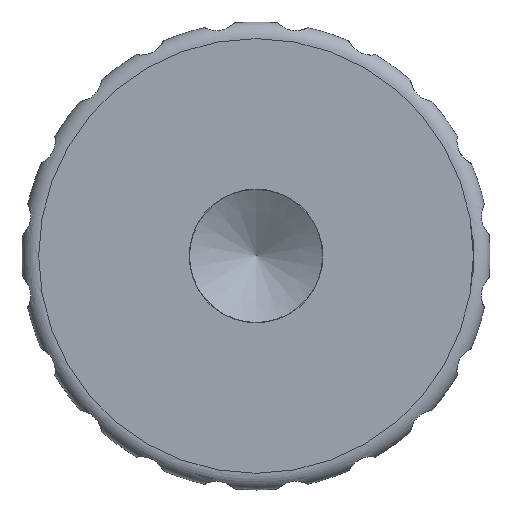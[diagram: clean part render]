
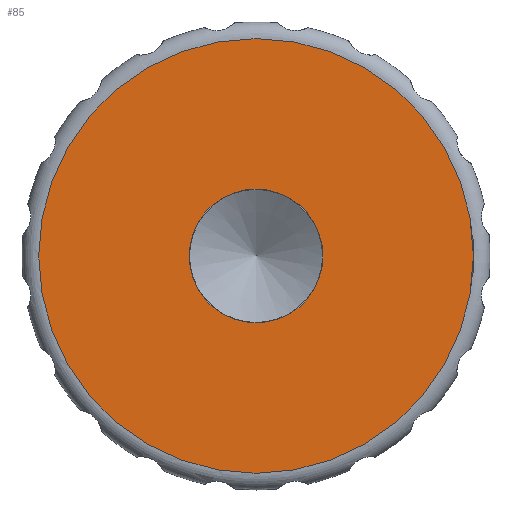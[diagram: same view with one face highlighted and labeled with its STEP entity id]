
A CAD part, left-side view. The second image highlights one B-rep face of the part: STEP entity #85.
In plain terms, the highlighted planar face has unit normal (-1, 0, 0).
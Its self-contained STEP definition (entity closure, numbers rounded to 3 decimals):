
#85 = ADVANCED_FACE( '', ( #167, #168 ), #169, .F. );
#167 = FACE_OUTER_BOUND( '', #320, .T. );
#168 = FACE_BOUND( '', #321, .T. );
#169 = PLANE( '', #322 );
#320 = EDGE_LOOP( '', ( #555 ) );
#321 = EDGE_LOOP( '', ( #556 ) );
#322 = AXIS2_PLACEMENT_3D( '', #557, #558, #559 );
#555 = ORIENTED_EDGE( '', *, *, #1067, .F. );
#556 = ORIENTED_EDGE( '', *, *, #1068, .T. );
#557 = CARTESIAN_POINT( '', ( 0., 4., 0. ) );
#558 = DIRECTION( '', ( 1., 0., 0. ) );
#559 = DIRECTION( '', ( 0., 0., -1. ) );
#1067 = EDGE_CURVE( '', #1298, #1298, #1299, .T. );
#1068 = EDGE_CURVE( '', #1300, #1300, #1301, .T. );
#1298 = VERTEX_POINT( '', #2096 );
#1299 = CIRCLE( '', #2097, 13. );
#1300 = VERTEX_POINT( '', #2098 );
#1301 = CIRCLE( '', #2099, 4. );
#2096 = CARTESIAN_POINT( '', ( 0., 0., -13. ) );
#2097 = AXIS2_PLACEMENT_3D( '', #2692, #2693, #2694 );
#2098 = CARTESIAN_POINT( '', ( 0., 0., -4. ) );
#2099 = AXIS2_PLACEMENT_3D( '', #2695, #2696, #2697 );
#2692 = CARTESIAN_POINT( '', ( 0., 0., 0. ) );
#2693 = DIRECTION( '', ( 1., 0., 0. ) );
#2694 = DIRECTION( '', ( 0., 0., -1. ) );
#2695 = CARTESIAN_POINT( '', ( 0., 0., 0. ) );
#2696 = DIRECTION( '', ( 1., 0., 0. ) );
#2697 = DIRECTION( '', ( 0., 0., -1. ) );
